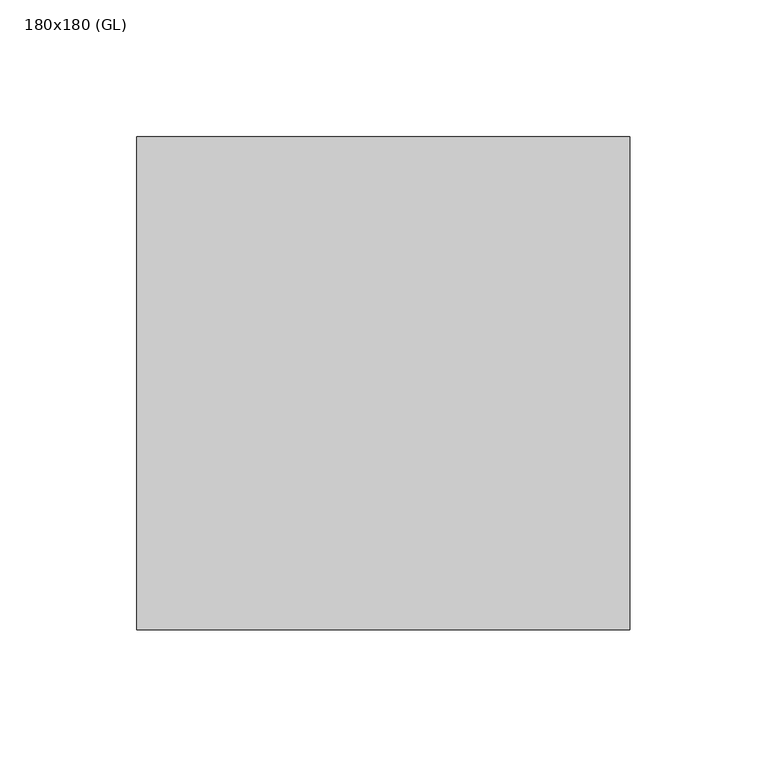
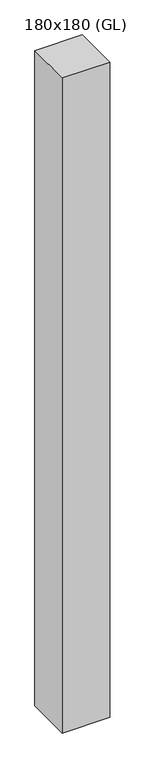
"""IFC4 building model written with IfcOpenShell, lengths in millimetres: column geometry, NLRS_28_SC_TLB_kolom vierkant hout_generiek_ISR : 180x180 (GL)."""

from ifc_helpers import new_model, si_unit, origin, origin_with_axes, place, context, project, spatial, polyline, outline, extrude, source, transform, mapped, element, save


def column_180x180_gl_39b06fff(model_context):
    return source(origin(), model_context, "Body", "SweptSolid", [
        extrude(outline(polyline([(90.0, 90.0), (90.0, -90.0), (-90.0, -90.0), (-90.0, 90.0), (90.0, 90.0)])), origin_with_axes(), (0.0, 0.0, 1.0), 2632.0),
    ])


if __name__ == "__main__":
    model = new_model("IFC4")
    model_context = context("Model", 3, world=origin())
    ifc_project = project(units=[si_unit("LENGTHUNIT", "METRE", prefix="MILLI")], contexts=[model_context])
    site = spatial("IfcSite", under=ifc_project)
    building = spatial("IfcBuilding", under=site)
    placement = place(None, origin())
    column_180x180_gl_shape = column_180x180_gl_39b06fff(model_context)
    element("IfcColumn", 1, ObjectType="NLRS_28_SC_TLB_kolom vierkant hout_generiek_ISR : 180x180 (GL)", at=placement, inside=building, context=model_context, shape_type="MappedRepresentation", body=[
        mapped(column_180x180_gl_shape, transform((0.0, 0.0, 0.0), x_axis=(1.0, 0.0, 0.0), y_axis=(0.0, 1.0, 0.0), z_axis=(0.0, 0.0, 1.0))),
    ])
    save(model, "model.ifc")
